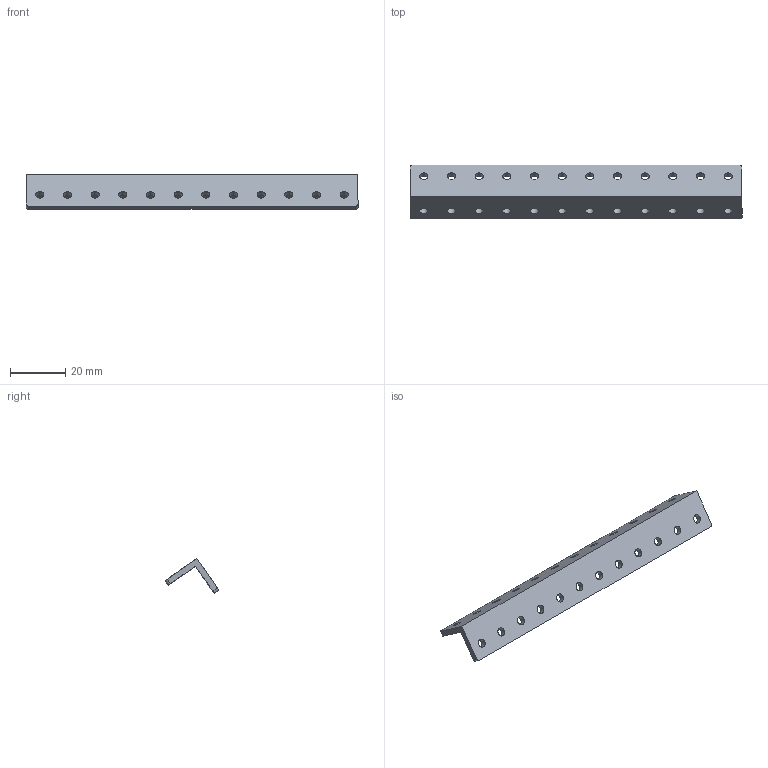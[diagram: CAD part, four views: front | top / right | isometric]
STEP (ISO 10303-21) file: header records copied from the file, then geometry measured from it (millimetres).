
FILE_DESCRIPTION(/* description */ (''),/* implementation_level */ '2;1');
FILE_NAME(/* name */ 'C:/Users/User/Desktop/abs_plastic v1 v1.step',/* time_stamp */ '2020-09-21T13:35:46+08:00',/* author */ (''),/* organization */ (''),/* preprocessor_version */ 'ST-DEVELOPER v18.1',/* originating_system */ 'Autodesk Translation Framework v9.3.0.1241',/* authorisation */ '');
FILE_SCHEMA (('AUTOMOTIVE_DESIGN { 1 0 10303 214 3 1 1 }'));
Length unit declared in the file: millimetre
Products named in the file (2): abs_plastic v1; L_abs
Assembly tree (1 placements, depth 2):
  abs_plastic v1
    L_abs
Bounding box: 120 x 19.5 x 12.62 mm (x, y, z)
Volume: 5899 mm3; surface area: 6931.9 mm2
Topology: 1 solids, 1 shells, 36 faces, 102 edges, 68 vertices
Faces by surface type: cylinder 28, plane 8
Full cylindrical faces by diameter (mm): 3 x24
Entity records: 1358 total; most frequent: DIRECTION 236, CARTESIAN_POINT 209, ORIENTED_EDGE 204, EDGE_CURVE 102, AXIS2_PLACEMENT_3D 95, EDGE_LOOP 84, VERTEX_POINT 68, CIRCLE 56
